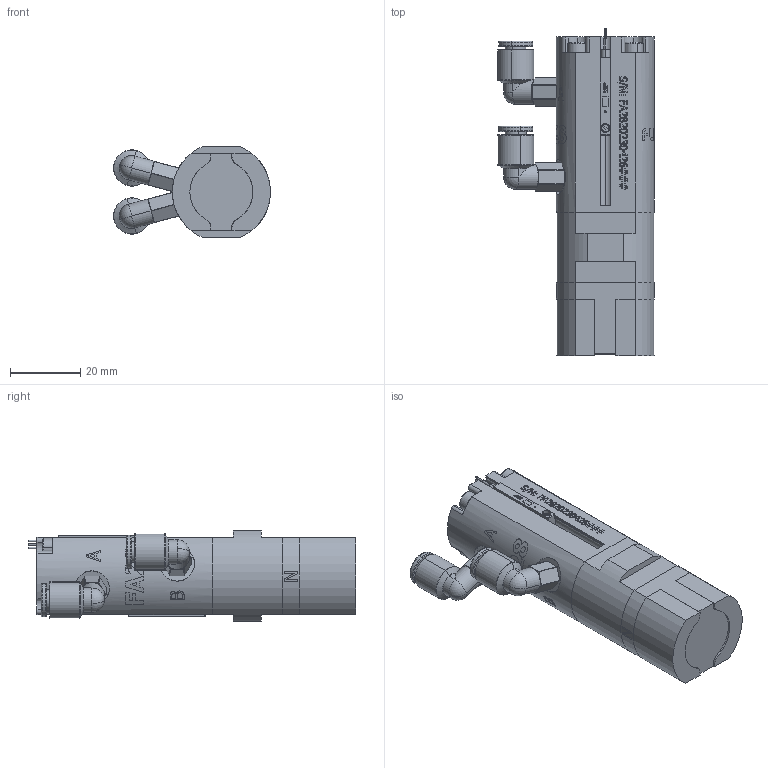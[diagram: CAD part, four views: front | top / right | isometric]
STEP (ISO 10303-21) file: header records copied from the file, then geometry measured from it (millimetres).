
FILE_DESCRIPTION (( 'STEP AP214' ), '1' );
FILE_NAME ('9970113_FA28-S-1.STEP', '2025-01-09T22:07:48', ( '' ), ( '' ), 'SwSTEP 2.0', 'SolidWorks 2021', '' );
FILE_SCHEMA (( 'AUTOMOTIVE_DESIGN' ));
Length unit declared in the file: millimetre
Products named in the file (12): 4060031_FA28 std flat pole kit___; 120040_FA28 shunt(FOR SHARE); 180027_ M5-6mm_plug-in airport; 160030_2.5X12__SUS304___; 120039_FA28 std flat pole; 9070005 - FA28 (FOR SHARE); 150048_M3X75_SHCS_304(FOR SHARE)_91292A316; 110030_FA28 base housing(FOR SHARE); 9970113_FA28-S-1; 210011_D-M9P magnetic prox switch (PNP)_M9P; 110031_FA28 actuator top(FOR SHARE); 160029_2.5X8__SUS304___
Assembly tree (19 placements, depth 3):
  9970113_FA28-S-1
    9070005 - FA28 (FOR SHARE)
      110031_FA28 actuator top(FOR SHARE)
      110030_FA28 base housing(FOR SHARE)
      120040_FA28 shunt(FOR SHARE)
      150048_M3X75_SHCS_304(FOR SHARE)_91292A316  x4
      160029_2.5X8__SUS304___  x2
      160030_2.5X12__SUS304___  x2
    210011_D-M9P magnetic prox switch (PNP)_M9P  x2
    180027_ M5-6mm_plug-in airport  x2
    4060031_FA28 std flat pole kit___
      120039_FA28 std flat pole  x2
Bounding box: 44.78 x 93.5 x 26 mm (x, y, z)
Volume: 47937.1 mm3; surface area: 24955.7 mm2
Topology: 17 solids, 23 shells, 805 faces, 2325 edges, 1609 vertices
Faces by surface type: cylinder 305, plane 256, cone 134, bspline 50, torus 32, sphere 28
Entity records: 23775 total; most frequent: CARTESIAN_POINT 7929, ORIENTED_EDGE 3096, DIRECTION 2622, EDGE_CURVE 1552, VERTEX_POINT 1178, AXIS2_PLACEMENT_3D 952, LINE 718, VECTOR 718
